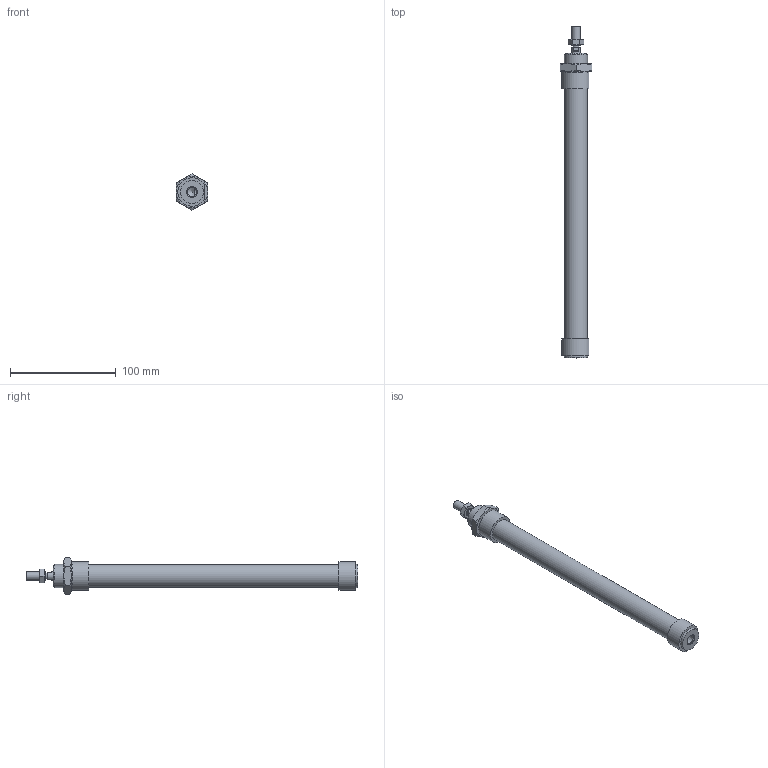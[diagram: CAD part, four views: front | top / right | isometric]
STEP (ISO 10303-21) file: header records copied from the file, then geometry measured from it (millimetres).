
FILE_DESCRIPTION((''),'2;1');
FILE_NAME('I:\Area Tecnica\Disegni\VARIE-3D\Componenti\1280\1281_##_####_#\1281_20_0200.iam.stp','2009-06-04T09:39:22',(''),(''),'Autodesk Inventor 2010','Autodesk Inventor 2010','');
FILE_SCHEMA(('AUTOMOTIVE_DESIGN { 1 0 10303 214 1 1 1 1 }'));
Length unit declared in the file: millimetre
Products named in the file (5): 1281_20_0200; C1281_20_200; S1280_20_200; 1200_20_05; 1200_20_06
Assembly tree (4 placements, depth 2):
  1281_20_0200
    C1281_20_200
    S1280_20_200
    1200_20_05
    1200_20_06
Bounding box: 30 x 314.5 x 34.64 mm (x, y, z)
Volume: 111918.1 mm3; surface area: 36850.6 mm2
Topology: 4 solids, 4 shells, 86 faces, 185 edges, 112 vertices
Faces by surface type: plane 36, cone 26, bspline 15, cylinder 9
Full cylindrical faces by diameter (mm): 6.5 x1, 8 x3, 21.2 x1, 22 x2
Entity records: 2537 total; most frequent: CARTESIAN_POINT 698, DIRECTION 332, ORIENTED_EDGE 310, EDGE_CURVE 155, AXIS2_PLACEMENT_3D 148, EDGE_LOOP 120, VERTEX_POINT 103, STYLED_ITEM 90
